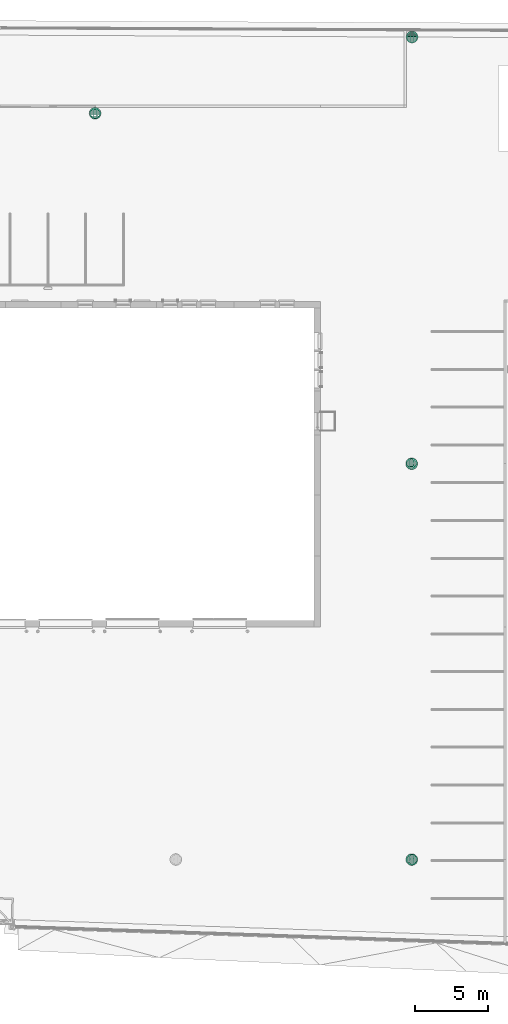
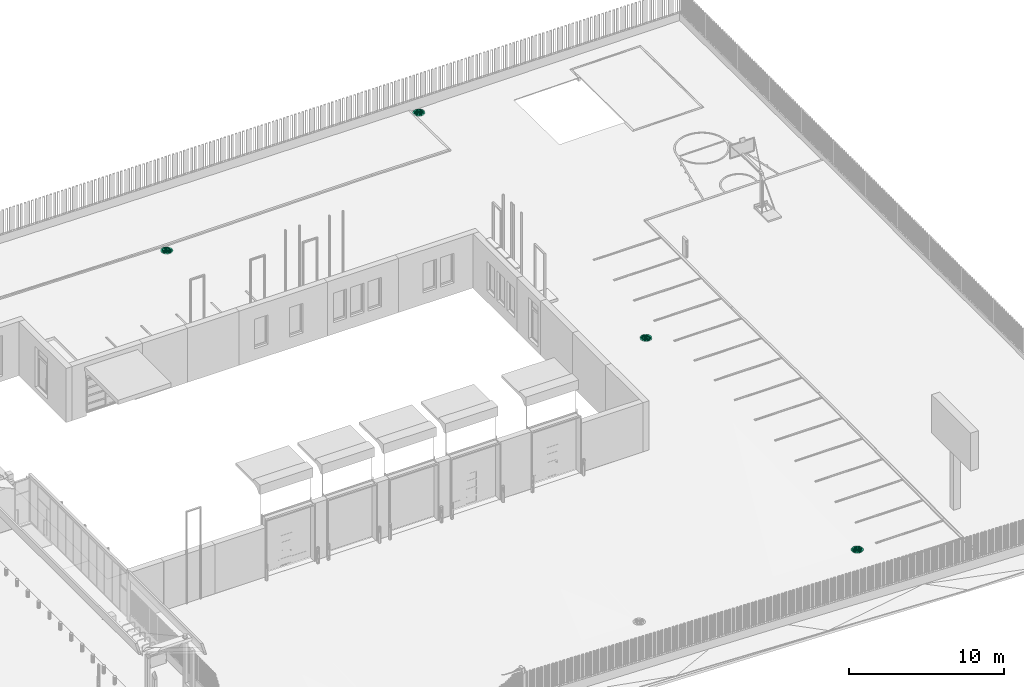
# One storey, part 73 of 77: 4 flow terminals.
"""IFC2X3 building model written with IfcOpenShell, lengths in millimetres."""

from ifc_helpers import new_model, entity, si_unit, converted_unit, derived_unit, direction, frame, frame_2d, origin, origin_2d_with_axis, place, context, subcontext, project, spatial, polyline, circle_curve, parameter, trimmed, segment, composite_curve, outline, extrude, source, transform, mapped, material, element, save


model = new_model("IFC2X3")

# Units and contexts
model_context = context("Model", 3, precision=0.01, world=origin(), true_north=direction((6.12303176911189e-17, 1.0)))
body_context = subcontext(model_context, "Body", "Model", "MODEL_VIEW")
ifc_project = project(units=[si_unit("LENGTHUNIT", "METRE", prefix="MILLI"), si_unit("AREAUNIT", "SQUARE_METRE"), si_unit("VOLUMEUNIT", "CUBIC_METRE"), converted_unit("PLANEANGLEUNIT", "DEGREE", entity("IfcRatioMeasure", 0.0174532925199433), si_unit("PLANEANGLEUNIT", "RADIAN"), dimensions=[0, 0, 0, 0, 0, 0, 0]), si_unit("MASSUNIT", "GRAM", prefix="KILO"), derived_unit("MASSDENSITYUNIT", [(si_unit("MASSUNIT", "GRAM", prefix="KILO"), 1), (si_unit("LENGTHUNIT", "METRE"), -3)]), si_unit("TIMEUNIT", "SECOND"), si_unit("FREQUENCYUNIT", "HERTZ"), si_unit("THERMODYNAMICTEMPERATUREUNIT", "DEGREE_CELSIUS"), derived_unit("THERMALTRANSMITTANCEUNIT", [(si_unit("MASSUNIT", "GRAM", prefix="KILO"), 1), (si_unit("THERMODYNAMICTEMPERATUREUNIT", "KELVIN"), -1), (si_unit("TIMEUNIT", "SECOND"), -3)]), derived_unit("VOLUMETRICFLOWRATEUNIT", [(si_unit("LENGTHUNIT", "METRE"), 3), (si_unit("TIMEUNIT", "SECOND"), -1)]), si_unit("ELECTRICCURRENTUNIT", "AMPERE"), si_unit("ELECTRICVOLTAGEUNIT", "VOLT"), si_unit("POWERUNIT", "WATT"), si_unit("FORCEUNIT", "NEWTON", prefix="KILO"), si_unit("ILLUMINANCEUNIT", "LUX"), si_unit("LUMINOUSFLUXUNIT", "LUMEN"), si_unit("LUMINOUSINTENSITYUNIT", "CANDELA"), derived_unit("USERDEFINED", [(si_unit("MASSUNIT", "GRAM", prefix="KILO"), -1), (si_unit("LENGTHUNIT", "METRE"), -2), (si_unit("TIMEUNIT", "SECOND"), 3), (si_unit("LUMINOUSFLUXUNIT", "LUMEN"), 1)]), derived_unit("LINEARVELOCITYUNIT", [(si_unit("LENGTHUNIT", "METRE"), 1), (si_unit("TIMEUNIT", "SECOND"), -1)]), si_unit("PRESSUREUNIT", "PASCAL"), derived_unit("USERDEFINED", [(si_unit("LENGTHUNIT", "METRE"), -2), (si_unit("MASSUNIT", "GRAM", prefix="KILO"), 1), (si_unit("TIMEUNIT", "SECOND"), -2)])], contexts=[model_context])

# Site, building, storey
site_placement = place(None, origin())
site = spatial("IfcSite", under=ifc_project, at=site_placement, Name="Default", CompositionType="ELEMENT")
building_placement = place(site_placement, origin())
building = spatial("IfcBuilding", under=site, at=building_placement, CompositionType="ELEMENT")
storey_placement = place(building_placement, origin())
storey = spatial("IfcBuildingStorey", under=building, at=storey_placement, Name="1. KORRUS", CompositionType="ELEMENT", Elevation=0.0)

# Flow terminals
ifc_material = material(Name="malm")
shared_shape = source(origin(), body_context, "Body", "SweptSolid", [
    extrude(outline(composite_curve([segment(trimmed(circle_curve(origin_2d_with_axis(), 400.0), [parameter(0.0)], [parameter(180.0)], True, "PARAMETER"), True, "CONTINUOUS"), segment(trimmed(circle_curve(origin_2d_with_axis(), 400.0), [parameter(180.0)], [parameter(360.0)], True, "PARAMETER"), True, "CONTINUOUS")], self_intersect=False), holes=[composite_curve([segment(trimmed(circle_curve(frame_2d((92.5, 0.0), x_axis=(1.0, 0.0)), 17.5), [parameter(270.0)], [parameter(90.0)], True, "PARAMETER"), False, "CONTINUOUS"), segment(polyline([(92.5, -17.5000000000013), (-92.5, -17.5000000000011)]), True, "CONTINUOUS"), segment(trimmed(circle_curve(frame_2d((-92.5, 0.0), x_axis=(-1.0, 0.0)), 17.5), [parameter(270.0)], [parameter(90.0000000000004)], True, "PARAMETER"), False, "CONTINUOUS"), segment(polyline([(-92.5000000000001, 17.4999999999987), (92.5, 17.4999999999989)]), True, "CONTINUOUS")], self_intersect=False), composite_curve([segment(trimmed(circle_curve(frame_2d((92.5000000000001, 75.0), x_axis=(1.0, 0.0)), 17.5), [parameter(270.0)], [parameter(90.0000000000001)], True, "PARAMETER"), False, "CONTINUOUS"), segment(polyline([(92.5000000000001, 57.4999999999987), (-92.4999999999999, 57.4999999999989)]), True, "CONTINUOUS"), segment(trimmed(circle_curve(frame_2d((-92.4999999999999, 75.0), x_axis=(-1.0, 0.0)), 17.5), [parameter(270.0)], [parameter(90.0000000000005)], True, "PARAMETER"), False, "CONTINUOUS"), segment(polyline([(-92.5, 92.4999999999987), (92.5000000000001, 92.4999999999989)]), True, "CONTINUOUS")], self_intersect=False), composite_curve([segment(trimmed(circle_curve(frame_2d((92.5000000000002, 150.0), x_axis=(1.0, 0.0)), 17.5), [parameter(270.0)], [parameter(90.0000000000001)], True, "PARAMETER"), False, "CONTINUOUS"), segment(polyline([(92.5000000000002, 132.499999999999), (-92.4999999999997, 132.499999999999)]), True, "CONTINUOUS"), segment(trimmed(circle_curve(frame_2d((-92.4999999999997, 150.0), x_axis=(-1.0, 0.0)), 17.5), [parameter(270.0)], [parameter(90.0000000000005)], True, "PARAMETER"), False, "CONTINUOUS"), segment(polyline([(-92.4999999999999, 167.499999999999), (92.5000000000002, 167.499999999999)]), True, "CONTINUOUS")], self_intersect=False), composite_curve([segment(trimmed(circle_curve(frame_2d((92.5000000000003, 225.0), x_axis=(1.0, 0.0)), 17.5), [parameter(270.0)], [parameter(90.0000000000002)], True, "PARAMETER"), False, "CONTINUOUS"), segment(polyline([(92.5000000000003, 207.499999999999), (-92.4999999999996, 207.499999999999)]), True, "CONTINUOUS"), segment(trimmed(circle_curve(frame_2d((-92.4999999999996, 225.0), x_axis=(-1.0, 0.0)), 17.5), [parameter(270.0)], [parameter(90.0000000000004)], True, "PARAMETER"), False, "CONTINUOUS"), segment(polyline([(-92.4999999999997, 242.499999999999), (92.5000000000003, 242.499999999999)]), True, "CONTINUOUS")], self_intersect=False), composite_curve([segment(trimmed(circle_curve(frame_2d((-92.4999999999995, 293.113425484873), x_axis=(1.0, 0.0)), 10.6134254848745), [parameter(125.029046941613)], [parameter(270.0)], True, "PARAMETER"), False, "CONTINUOUS"), segment(trimmed(circle_curve(origin_2d_with_axis(), 317.499999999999), [parameter(71.9090650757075)], [parameter(108.090934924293)], True, "PARAMETER"), False, "CONTINUOUS"), segment(trimmed(circle_curve(frame_2d((92.5000000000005, 293.113425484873), x_axis=(-1.0, 0.0)), 10.6134254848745), [parameter(90.0000000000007)], [parameter(234.970953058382)], True, "PARAMETER"), False, "CONTINUOUS"), segment(polyline([(92.5000000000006, 282.499999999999), (-92.4999999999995, 282.499999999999)]), True, "CONTINUOUS")], self_intersect=False), composite_curve([segment(trimmed(circle_curve(frame_2d((300.0, 0.0), x_axis=(1.0, 0.0)), 17.5), [parameter(270.0)], [parameter(90.0000000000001)], True, "PARAMETER"), False, "CONTINUOUS"), segment(polyline([(300.0, -17.500000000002), (157.5, -17.5000000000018)]), True, "CONTINUOUS"), segment(trimmed(circle_curve(frame_2d((157.5, 0.0), x_axis=(-1.0, 0.0)), 17.5), [parameter(270.0)], [parameter(90.0000000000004)], True, "PARAMETER"), False, "CONTINUOUS"), segment(polyline([(157.5, 17.4999999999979), (300.0, 17.4999999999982)]), True, "CONTINUOUS")], self_intersect=False), composite_curve([segment(trimmed(circle_curve(frame_2d((291.014586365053, 75.0), x_axis=(1.0, 0.0)), 17.5), [parameter(270.0)], [parameter(90.0000000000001)], True, "PARAMETER"), False, "CONTINUOUS"), segment(polyline([(291.014586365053, 57.499999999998), (157.5, 57.4999999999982)]), True, "CONTINUOUS"), segment(trimmed(circle_curve(frame_2d((157.5, 75.0), x_axis=(-1.0, 0.0)), 17.5), [parameter(270.0)], [parameter(90.0000000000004)], True, "PARAMETER"), False, "CONTINUOUS"), segment(polyline([(157.5, 92.4999999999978), (291.014586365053, 92.4999999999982)]), True, "CONTINUOUS")], self_intersect=False), composite_curve([segment(trimmed(circle_curve(frame_2d((262.33253920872, 150.0), x_axis=(1.0, 0.0)), 17.5), [parameter(270.0)], [parameter(90.0000000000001)], True, "PARAMETER"), False, "CONTINUOUS"), segment(polyline([(262.33253920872, 132.499999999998), (157.5, 132.499999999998)]), True, "CONTINUOUS"), segment(trimmed(circle_curve(frame_2d((157.5, 150.0), x_axis=(-1.0, 0.0)), 17.5), [parameter(270.0)], [parameter(90.0000000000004)], True, "PARAMETER"), False, "CONTINUOUS"), segment(polyline([(157.5, 167.499999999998), (262.33253920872, 167.499999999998)]), True, "CONTINUOUS")], self_intersect=False), composite_curve([segment(trimmed(circle_curve(frame_2d((199.154622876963, 225.0), x_axis=(1.0, 0.0)), 17.5), [parameter(270.0)], [parameter(90.0000000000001)], True, "PARAMETER"), False, "CONTINUOUS"), segment(polyline([(199.154622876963, 207.499999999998), (157.5, 207.499999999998)]), True, "CONTINUOUS"), segment(trimmed(circle_curve(frame_2d((157.5, 225.0), x_axis=(-1.0, 0.0)), 17.5), [parameter(270.0)], [parameter(90.0000000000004)], True, "PARAMETER"), False, "CONTINUOUS"), segment(polyline([(157.5, 242.499999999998), (199.154622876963, 242.499999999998)]), True, "CONTINUOUS")], self_intersect=False), composite_curve([segment(polyline([(-291.014586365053, 92.4999999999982), (-157.5, 92.4999999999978)]), True, "CONTINUOUS"), segment(trimmed(circle_curve(frame_2d((-157.5, 75.0), x_axis=(1.0, 0.0)), 17.5), [parameter(270.0)], [parameter(90.0000000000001)], True, "PARAMETER"), False, "CONTINUOUS"), segment(polyline([(-157.5, 57.4999999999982), (-291.014586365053, 57.499999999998)]), True, "CONTINUOUS"), segment(trimmed(circle_curve(frame_2d((-291.014586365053, 75.0), x_axis=(-1.0, 0.0)), 17.5), [parameter(270.0)], [parameter(90.0000000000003)], True, "PARAMETER"), False, "CONTINUOUS")], self_intersect=False), composite_curve([segment(polyline([(-262.33253920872, 167.499999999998), (-157.5, 167.499999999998)]), True, "CONTINUOUS"), segment(trimmed(circle_curve(frame_2d((-157.5, 150.0), x_axis=(1.0, 0.0)), 17.5), [parameter(270.0)], [parameter(90.0000000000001)], True, "PARAMETER"), False, "CONTINUOUS"), segment(polyline([(-157.5, 132.499999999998), (-262.33253920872, 132.499999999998)]), True, "CONTINUOUS"), segment(trimmed(circle_curve(frame_2d((-262.33253920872, 150.0), x_axis=(-1.0, 0.0)), 17.5), [parameter(270.0)], [parameter(90.0000000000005)], True, "PARAMETER"), False, "CONTINUOUS")], self_intersect=False), composite_curve([segment(polyline([(-199.154622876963, 242.499999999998), (-157.5, 242.499999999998)]), True, "CONTINUOUS"), segment(trimmed(circle_curve(frame_2d((-157.5, 225.0), x_axis=(1.0, 0.0)), 17.5), [parameter(270.0)], [parameter(90.0000000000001)], True, "PARAMETER"), False, "CONTINUOUS"), segment(polyline([(-157.5, 207.499999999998), (-199.154622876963, 207.499999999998)]), True, "CONTINUOUS"), segment(trimmed(circle_curve(frame_2d((-199.154622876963, 225.0), x_axis=(-1.0, 0.0)), 17.5), [parameter(270.0)], [parameter(90.0000000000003)], True, "PARAMETER"), False, "CONTINUOUS")], self_intersect=False), composite_curve([segment(polyline([(-300.0, 17.4999999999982), (-157.5, 17.4999999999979)]), True, "CONTINUOUS"), segment(trimmed(circle_curve(frame_2d((-157.5, 0.0), x_axis=(1.0, 0.0)), 17.5), [parameter(270.0)], [parameter(90.0000000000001)], True, "PARAMETER"), False, "CONTINUOUS"), segment(polyline([(-157.5, -17.5000000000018), (-300.0, -17.500000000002)]), True, "CONTINUOUS"), segment(trimmed(circle_curve(frame_2d((-300.0, 0.0), x_axis=(-1.0, 0.0)), 17.5), [parameter(270.0)], [parameter(90.0000000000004)], True, "PARAMETER"), False, "CONTINUOUS")], self_intersect=False), composite_curve([segment(polyline([(92.5000000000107, -92.5000000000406), (-92.4999999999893, -92.5000000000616)]), True, "CONTINUOUS"), segment(trimmed(circle_curve(frame_2d((-92.4999999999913, -75.0), x_axis=(-1.0, 0.0)), 17.5), [parameter(270.0)], [parameter(90.0000000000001)], True, "PARAMETER"), False, "CONTINUOUS"), segment(polyline([(-92.4999999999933, -57.5000000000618), (92.5000000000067, -57.5000000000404)]), True, "CONTINUOUS"), segment(trimmed(circle_curve(frame_2d((92.5000000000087, -75.0), x_axis=(1.0, 0.0)), 17.5), [parameter(270.0)], [parameter(90.0000000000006)], True, "PARAMETER"), False, "CONTINUOUS")], self_intersect=False), composite_curve([segment(polyline([(92.5000000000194, -167.500000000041), (-92.4999999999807, -167.500000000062)]), True, "CONTINUOUS"), segment(trimmed(circle_curve(frame_2d((-92.4999999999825, -150.0), x_axis=(-1.0, 0.0)), 17.5), [parameter(270.0)], [parameter(90.0000000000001)], True, "PARAMETER"), False, "CONTINUOUS"), segment(polyline([(-92.4999999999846, -132.500000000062), (92.5000000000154, -132.50000000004)]), True, "CONTINUOUS"), segment(trimmed(circle_curve(frame_2d((92.5000000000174, -150.0), x_axis=(1.0, 0.0)), 17.5), [parameter(270.0)], [parameter(90.0000000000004)], True, "PARAMETER"), False, "CONTINUOUS")], self_intersect=False), composite_curve([segment(polyline([(92.5000000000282, -242.500000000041), (-92.4999999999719, -242.500000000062)]), True, "CONTINUOUS"), segment(trimmed(circle_curve(frame_2d((-92.4999999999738, -225.0), x_axis=(-1.0, 0.0)), 17.5), [parameter(270.0)], [parameter(90.0)], True, "PARAMETER"), False, "CONTINUOUS"), segment(polyline([(-92.4999999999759, -207.500000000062), (92.5000000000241, -207.50000000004)]), True, "CONTINUOUS"), segment(trimmed(circle_curve(frame_2d((92.5000000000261, -225.0), x_axis=(1.0, 0.0)), 17.5), [parameter(270.0)], [parameter(90.0000000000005)], True, "PARAMETER"), False, "CONTINUOUS")], self_intersect=False), composite_curve([segment(polyline([(-92.4999999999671, -282.500000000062), (92.5000000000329, -282.500000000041)]), True, "CONTINUOUS"), segment(trimmed(circle_curve(frame_2d((92.5000000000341, -293.113425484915), x_axis=(-1.0, 0.0)), 10.6134254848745), [parameter(125.029046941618)], [parameter(270.0)], True, "PARAMETER"), False, "CONTINUOUS"), segment(trimmed(circle_curve(origin_2d_with_axis(), 317.499999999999), [parameter(251.909065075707)], [parameter(288.090934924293)], True, "PARAMETER"), False, "CONTINUOUS"), segment(trimmed(circle_curve(frame_2d((-92.4999999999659, -293.113425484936), x_axis=(1.0, 0.0)), 10.6134254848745), [parameter(90.0000000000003)], [parameter(234.970953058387)], True, "PARAMETER"), False, "CONTINUOUS")], self_intersect=False), composite_curve([segment(polyline([(291.014586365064, -92.5000000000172), (157.500000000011, -92.5000000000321)]), True, "CONTINUOUS"), segment(trimmed(circle_curve(frame_2d((157.500000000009, -75.0), x_axis=(-1.0, 0.0)), 17.5), [parameter(270.0)], [parameter(90.0)], True, "PARAMETER"), False, "CONTINUOUS"), segment(polyline([(157.500000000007, -57.5000000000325), (291.01458636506, -57.5000000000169)]), True, "CONTINUOUS"), segment(trimmed(circle_curve(frame_2d((291.014586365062, -75.0), x_axis=(1.0, 0.0)), 17.5), [parameter(270.0)], [parameter(90.0000000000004)], True, "PARAMETER"), False, "CONTINUOUS")], self_intersect=False), composite_curve([segment(polyline([(262.33253920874, -167.50000000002), (157.500000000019, -167.500000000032)]), True, "CONTINUOUS"), segment(trimmed(circle_curve(frame_2d((157.500000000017, -150.0), x_axis=(-1.0, 0.0)), 17.5), [parameter(270.0)], [parameter(90.0)], True, "PARAMETER"), False, "CONTINUOUS"), segment(polyline([(157.500000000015, -132.500000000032), (262.332539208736, -132.50000000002)]), True, "CONTINUOUS"), segment(trimmed(circle_curve(frame_2d((262.332539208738, -150.0), x_axis=(1.0, 0.0)), 17.5), [parameter(270.0)], [parameter(90.0000000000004)], True, "PARAMETER"), False, "CONTINUOUS")], self_intersect=False), composite_curve([segment(polyline([(199.154622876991, -242.500000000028), (157.500000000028, -242.500000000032)]), True, "CONTINUOUS"), segment(trimmed(circle_curve(frame_2d((157.500000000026, -225.0), x_axis=(-1.0, 0.0)), 17.5), [parameter(270.0)], [parameter(90.0)], True, "PARAMETER"), False, "CONTINUOUS"), segment(polyline([(157.500000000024, -207.500000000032), (199.154622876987, -207.500000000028)]), True, "CONTINUOUS"), segment(trimmed(circle_curve(frame_2d((199.154622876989, -225.0), x_axis=(1.0, 0.0)), 17.5), [parameter(270.0)], [parameter(90.0000000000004)], True, "PARAMETER"), False, "CONTINUOUS")], self_intersect=False), composite_curve([segment(trimmed(circle_curve(frame_2d((-291.014586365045, -75.0), x_axis=(-1.0, 0.0)), 17.5), [parameter(270.0)], [parameter(90.0000000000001)], True, "PARAMETER"), False, "CONTINUOUS"), segment(polyline([(-291.014586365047, -57.5000000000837), (-157.499999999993, -57.5000000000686)]), True, "CONTINUOUS"), segment(trimmed(circle_curve(frame_2d((-157.499999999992, -75.0), x_axis=(1.0, 0.0)), 17.5), [parameter(270.0)], [parameter(90.0000000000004)], True, "PARAMETER"), False, "CONTINUOUS"), segment(polyline([(-157.499999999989, -92.5000000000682), (-291.014586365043, -92.5000000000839)]), True, "CONTINUOUS")], self_intersect=False), composite_curve([segment(trimmed(circle_curve(frame_2d((-262.332539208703, -150.0), x_axis=(-1.0, 0.0)), 17.5), [parameter(270.0)], [parameter(90.0000000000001)], True, "PARAMETER"), False, "CONTINUOUS"), segment(polyline([(-262.332539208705, -132.50000000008), (-157.499999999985, -132.500000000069)]), True, "CONTINUOUS"), segment(trimmed(circle_curve(frame_2d((-157.499999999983, -150.0), x_axis=(1.0, 0.0)), 17.5), [parameter(270.0)], [parameter(90.0000000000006)], True, "PARAMETER"), False, "CONTINUOUS"), segment(polyline([(-157.499999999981, -167.500000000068), (-262.332539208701, -167.500000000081)]), True, "CONTINUOUS")], self_intersect=False), composite_curve([segment(trimmed(circle_curve(frame_2d((-199.154622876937, -225.0), x_axis=(-1.0, 0.0)), 17.5), [parameter(270.0)], [parameter(90.0)], True, "PARAMETER"), False, "CONTINUOUS"), segment(polyline([(-199.154622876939, -207.500000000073), (-157.499999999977, -207.500000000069)]), True, "CONTINUOUS"), segment(trimmed(circle_curve(frame_2d((-157.499999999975, -225.0), x_axis=(1.0, 0.0)), 17.5), [parameter(270.0)], [parameter(90.0000000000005)], True, "PARAMETER"), False, "CONTINUOUS"), segment(polyline([(-157.499999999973, -242.500000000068), (-199.154622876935, -242.500000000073)]), True, "CONTINUOUS")], self_intersect=False)]), frame((0.0, 0.0, -50.0)), (0.0, 0.0, 1.0), 50.0),
])
for number, where in (
    (1, (24427.6398963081, 34890.4140952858, -280.0)),
    (2, (46235.6672863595, 40137.8756631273, -240.0)),
    (3, (46209.4595363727, 10780.0, -170.0)),
    (4, (46218.8372965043, -16455.6716438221, -330.0)),
):
    element("IfcFlowTerminal", number, at=place(storey_placement, frame(where)), inside=storey, material=ifc_material, Name="restkaev:restkaev", ObjectType="restkaev", context=body_context, shape_type="MappedRepresentation", body=[
        mapped(shared_shape, transform((0.0, 0.0, 0.0), scale=1.0)),
    ])

save(model, "model.ifc")
